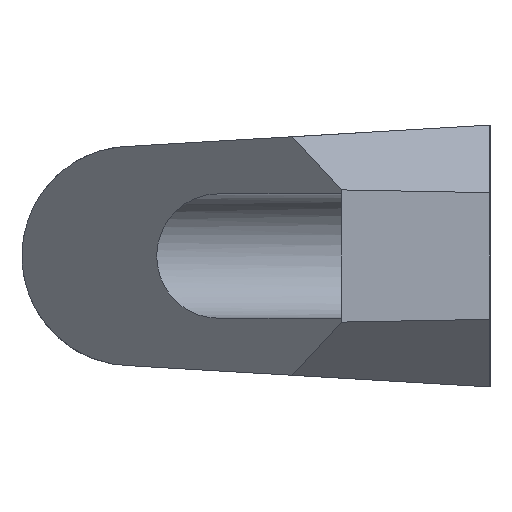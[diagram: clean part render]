
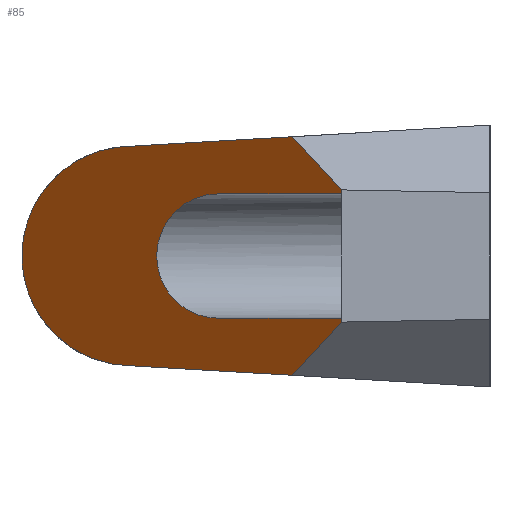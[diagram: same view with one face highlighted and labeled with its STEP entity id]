
A CAD part, left-side view. The second image highlights one B-rep face of the part: STEP entity #85.
In plain terms, the highlighted planar face has unit normal (-0.701, 0.714, 0).
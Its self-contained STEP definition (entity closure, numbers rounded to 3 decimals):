
#81 = ORIENTED_EDGE ( 'NONE', *, *, #86, .F. ) ;
#82 = EDGE_CURVE ( 'NONE', #89, #526, #854, .T. ) ;
#83 = ORIENTED_EDGE ( 'NONE', *, *, #2594, .F. ) ;
#84 = EDGE_CURVE ( 'NONE', #525, #2622, #870, .T. ) ;
#85 = ADVANCED_FACE ( 'NONE', ( #874 ), #835, .F. ) ;
#86 = EDGE_CURVE ( 'NONE', #2603, #521, #919, .T. ) ;
#87 = ORIENTED_EDGE ( 'NONE', *, *, #84, .F. ) ;
#88 = ORIENTED_EDGE ( 'NONE', *, *, #524, .F. ) ;
#89 = VERTEX_POINT ( 'NONE', #915 ) ;
#90 = EDGE_CURVE ( 'NONE', #98, #2577, #878, .T. ) ;
#91 = ORIENTED_EDGE ( 'NONE', *, *, #82, .F. ) ;
#92 = ORIENTED_EDGE ( 'NONE', *, *, #94, .F. ) ;
#93 = ORIENTED_EDGE ( 'NONE', *, *, #2629, .F. ) ;
#94 = EDGE_CURVE ( 'NONE', #2627, #98, #902, .T. ) ;
#96 = ORIENTED_EDGE ( 'NONE', *, *, #90, .F. ) ;
#98 = VERTEX_POINT ( 'NONE', #897 ) ;
#521 = VERTEX_POINT ( 'NONE', #1932 ) ;
#524 = EDGE_CURVE ( 'NONE', #521, #525, #1913, .T. ) ;
#525 = VERTEX_POINT ( 'NONE', #1937 ) ;
#526 = VERTEX_POINT ( 'NONE', #1989 ) ;
#835 = PLANE ( 'NONE',  #871 ) ;
#854 = LINE ( 'NONE', #887, #875 ) ;
#867 = DIRECTION ( 'NONE',  ( 0.713, 0.701, 0. ) ) ;
#868 = VECTOR ( 'NONE', #867, 1000. ) ;
#869 = CARTESIAN_POINT ( 'NONE',  ( -330.093, 17.6, 7.35 ) ) ;
#870 = LINE ( 'NONE', #869, #868 ) ;
#871 = AXIS2_PLACEMENT_3D ( 'NONE', #918, #917, #916 ) ;
#872 = DIRECTION ( 'NONE',  ( 0.713, 0.7, 0.041 ) ) ;
#873 = CARTESIAN_POINT ( 'NONE',  ( -329.211, 18.466, -14.411 ) ) ;
#874 = FACE_OUTER_BOUND ( 'NONE', #2631, .T. ) ;
#875 = VECTOR ( 'NONE', #886, 1000. ) ;
#878 = LINE ( 'NONE', #873, #907 ) ;
#886 = DIRECTION ( 'NONE',  ( -0.713, -0.701, 0. ) ) ;
#887 = CARTESIAN_POINT ( 'NONE',  ( -330.093, 17.6, -7.35 ) ) ;
#897 = CARTESIAN_POINT ( 'NONE',  ( -324.154, 23.432, -14.118 ) ) ;
#899 = DIRECTION ( 'NONE',  ( 0.569, 0.559, -0.603 ) ) ;
#900 = VECTOR ( 'NONE', #899, 1000. ) ;
#901 = CARTESIAN_POINT ( 'NONE',  ( -338.099, 9.738, 0.658 ) ) ;
#902 = LINE ( 'NONE', #901, #900 ) ;
#907 = VECTOR ( 'NONE', #872, 1000. ) ;
#912 = DIRECTION ( 'NONE',  ( -0.569, -0.559, -0.603 ) ) ;
#913 = VECTOR ( 'NONE', #912, 1000. ) ;
#914 = CARTESIAN_POINT ( 'NONE',  ( -327.459, 20.187, 10.617 ) ) ;
#915 = CARTESIAN_POINT ( 'NONE',  ( -315.2, 32.225, -7.35 ) ) ;
#916 = DIRECTION ( 'NONE',  ( -0.713, -0.701, 0. ) ) ;
#917 = DIRECTION ( 'NONE',  ( 0.701, -0.713, 0. ) ) ;
#918 = CARTESIAN_POINT ( 'NONE',  ( -330.093, 17.6, 15.5 ) ) ;
#919 = LINE ( 'NONE', #914, #913 ) ;
#1913 = LINE ( 'NONE', #1983, #1982 ) ;
#1932 = CARTESIAN_POINT ( 'NONE',  ( -330.093, 17.6, 7.826 ) ) ;
#1937 = CARTESIAN_POINT ( 'NONE',  ( -330.093, 17.6, 7.35 ) ) ;
#1981 = DIRECTION ( 'NONE',  ( 0., 0., -1. ) ) ;
#1982 = VECTOR ( 'NONE', #1981, 1000. ) ;
#1983 = CARTESIAN_POINT ( 'NONE',  ( -330.093, 17.6, 15.5 ) ) ;
#1989 = CARTESIAN_POINT ( 'NONE',  ( -330.093, 17.6, -7.35 ) ) ;
#2364 = CARTESIAN_POINT ( 'NONE',  ( -304.838, 42.4, -13. ) ) ;
#2372 = CARTESIAN_POINT ( 'NONE',  ( -304.838, 42.4, 13. ) ) ;
#2425 = CARTESIAN_POINT ( 'NONE',  ( -304.838, 42.4, 13. ) ) ;
#2426 = CARTESIAN_POINT ( 'NONE',  ( -278.362, 68.4, 13. ) ) ;
#2427 = CARTESIAN_POINT ( 'NONE',  ( -278.362, 68.4, -13. ) ) ;
#2428 = CARTESIAN_POINT ( 'NONE',  ( -304.838, 42.4, -13. ) ) ;
#2430 =( BOUNDED_CURVE ( )  B_SPLINE_CURVE ( 3, ( #2428, #2427, #2426, #2425 ),
 .UNSPECIFIED., .F., .T. ) 
 B_SPLINE_CURVE_WITH_KNOTS ( ( 4, 4 ),
 ( 4.712, 7.854 ),
 .UNSPECIFIED. ) 
 CURVE ( )  GEOMETRIC_REPRESENTATION_ITEM ( )  RATIONAL_B_SPLINE_CURVE ( ( 1., 0.333, 0.333, 1. ) ) 
 REPRESENTATION_ITEM ( '' )  );
#2462 = CARTESIAN_POINT ( 'NONE',  ( -324.154, 23.432, 14.118 ) ) ;
#2485 = CARTESIAN_POINT ( 'NONE',  ( -315.2, 32.225, 7.35 ) ) ;
#2489 = DIRECTION ( 'NONE',  ( -0.713, -0.7, 0.041 ) ) ;
#2490 = VECTOR ( 'NONE', #2489, 1000. ) ;
#2491 = CARTESIAN_POINT ( 'NONE',  ( -330.123, 17.57, 14.464 ) ) ;
#2496 = LINE ( 'NONE', #2491, #2490 ) ;
#2502 = CARTESIAN_POINT ( 'NONE',  ( -315.2, 32.225, -7.35 ) ) ;
#2503 = CARTESIAN_POINT ( 'NONE',  ( -300.5, 46.66, -7.35 ) ) ;
#2504 = CARTESIAN_POINT ( 'NONE',  ( -300.5, 46.66, 7.35 ) ) ;
#2505 = CARTESIAN_POINT ( 'NONE',  ( -315.2, 32.225, 7.35 ) ) ;
#2507 =( BOUNDED_CURVE ( )  B_SPLINE_CURVE ( 3, ( #2505, #2504, #2503, #2502 ),
 .UNSPECIFIED., .F., .T. ) 
 B_SPLINE_CURVE_WITH_KNOTS ( ( 4, 4 ),
 ( 1.571, 4.712 ),
 .UNSPECIFIED. ) 
 CURVE ( )  GEOMETRIC_REPRESENTATION_ITEM ( )  RATIONAL_B_SPLINE_CURVE ( ( 1., 0.333, 0.333, 1. ) ) 
 REPRESENTATION_ITEM ( '' )  );
#2508 = CARTESIAN_POINT ( 'NONE',  ( -330.093, 17.6, 15.5 ) ) ;
#2509 = LINE ( 'NONE', #2508, #2530 ) ;
#2514 = CARTESIAN_POINT ( 'NONE',  ( -330.093, 17.6, -7.826 ) ) ;
#2529 = DIRECTION ( 'NONE',  ( 0., 0., -1. ) ) ;
#2530 = VECTOR ( 'NONE', #2529, 1000. ) ;
#2577 = VERTEX_POINT ( 'NONE', #2364 ) ;
#2594 = EDGE_CURVE ( 'NONE', #2577, #2600, #2430, .T. ) ;
#2600 = VERTEX_POINT ( 'NONE', #2372 ) ;
#2603 = VERTEX_POINT ( 'NONE', #2462 ) ;
#2608 = EDGE_CURVE ( 'NONE', #2600, #2603, #2496, .T. ) ;
#2622 = VERTEX_POINT ( 'NONE', #2485 ) ;
#2624 = EDGE_CURVE ( 'NONE', #2622, #89, #2507, .T. ) ;
#2627 = VERTEX_POINT ( 'NONE', #2514 ) ;
#2628 = ORIENTED_EDGE ( 'NONE', *, *, #2608, .F. ) ;
#2629 = EDGE_CURVE ( 'NONE', #526, #2627, #2509, .T. ) ;
#2631 = EDGE_LOOP ( 'NONE', ( #2632, #87, #88, #81, #2628, #83, #96, #92, #93, #91 ) ) ;
#2632 = ORIENTED_EDGE ( 'NONE', *, *, #2624, .F. ) ;
